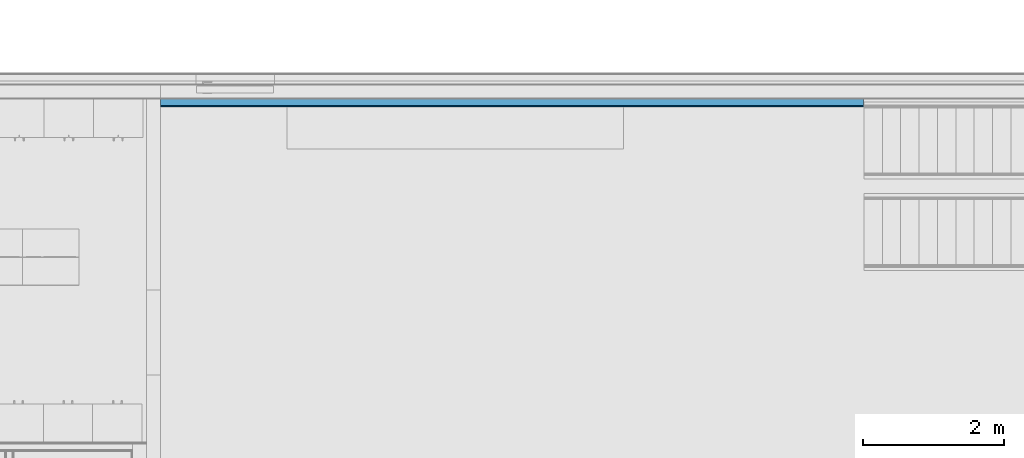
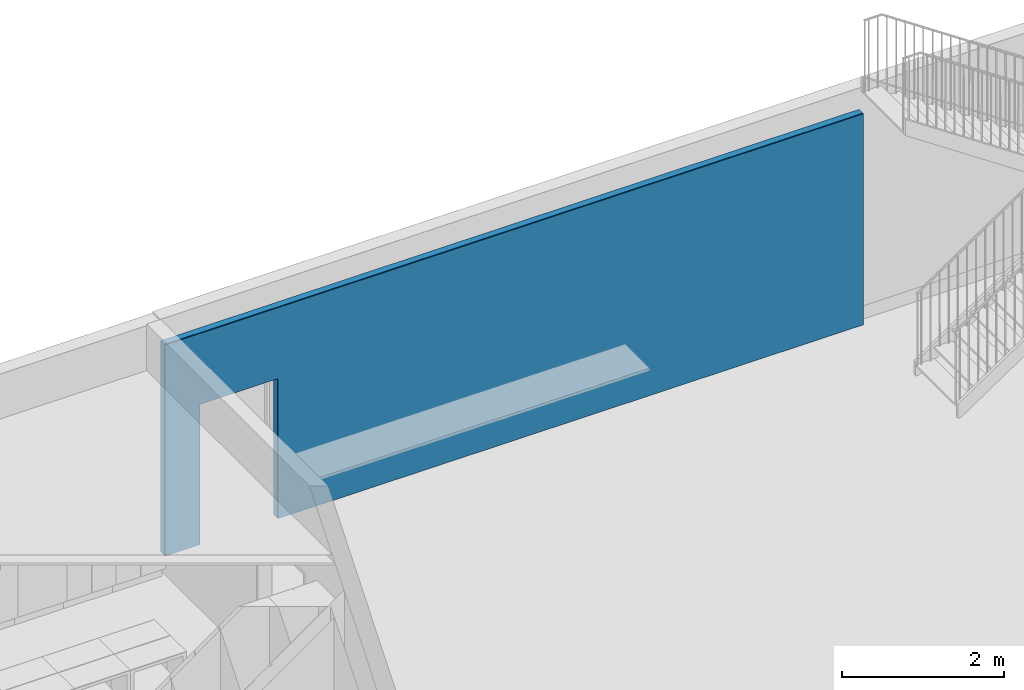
# One storey, part 19 of 67: 2 building element parts, 1 element without a shape of its own.
"""IFC4 building model written with IfcOpenShell, lengths in millimetres."""

from ifc_helpers import new_model, entity, si_unit, converted_unit, direction, frame, origin, place, context, subcontext, project, spatial, polygons, material, type_object, element, aggregate, save


model = new_model("IFC4")

# Units and contexts
model_context = context("Model", 3, precision=0.01, world=origin(), true_north=direction((0.0, 1.0)))
body_context = subcontext(model_context, "Body", "Model", "MODEL_VIEW")
ifc_project = project(units=[si_unit("LENGTHUNIT", "METRE", prefix="MILLI"), si_unit("AREAUNIT", "SQUARE_METRE"), si_unit("VOLUMEUNIT", "CUBIC_METRE"), converted_unit("PLANEANGLEUNIT", "DEGREE", entity("IfcPlaneAngleMeasure", 0.017453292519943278), si_unit("PLANEANGLEUNIT", "RADIAN"), dimensions=[0, 0, 0, 0, 0, 0, 0])], contexts=[model_context])

# Site, building, storey
site_placement = place(None, origin())
site = spatial("IfcSite", under=ifc_project, at=site_placement, Name="Tomtens navn", CompositionType="ELEMENT")
building_placement = place(site_placement, origin())
building = spatial("IfcBuilding", under=site, at=building_placement, Name="Byggets navn", CompositionType="ELEMENT")
storey_placement = place(building_placement, origin())
storey = spatial("IfcBuildingStorey", under=building, at=storey_placement, Name="Level 01", CompositionType="ELEMENT", Elevation=2.1993652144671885e-25)

# Wall, building element parts
wall_type = type_object("IfcWallType", Name="Basic Wall:IV12 Utforing Stender(48)-Forestia", PredefinedType="STANDARD")
wall_placement = place(storey_placement, frame((68822.85352810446, 22806.466456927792, 0.0)))
wall = element("IfcWall", 1, at=wall_placement, inside=storey, type_object=wall_type, Name="Basic Wall:IV12 Utforing Stender(48)-Forestia", PredefinedType="NOTDEFINED")
ifc_material_1 = material(Name="NO_platekledning forestia", Category="Tre")
building_element_part_1_placement = place(wall_placement, frame((0.0, -55.0, 0.0)))
building_element_part_1 = element("IfcBuildingElementPart", 2, at=building_element_part_1_placement, material=ifc_material_1, Name="NO_platekledning forestia", context=body_context, shape_type="Tessellation", body=[
    polygons([(9952.00000000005, 15.000000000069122, 7.331217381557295e-26), (1610.000000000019, 15.000000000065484, 7.331217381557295e-26), (1610.000000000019, 15.000000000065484, 2110.000000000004), (500.0000000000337, 15.000000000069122, 2110.000000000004), (500.0000000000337, 15.000000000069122, 7.331217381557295e-26), (4.604798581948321e-12, 15.000000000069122, 7.331217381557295e-26), (4.604798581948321e-12, 15.000000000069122, 3179.9999999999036), (9952.00000000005, 15.000000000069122, 3179.9999999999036), (500.0000000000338, 6.548361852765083e-11, 2.1993652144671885e-25), (4.707229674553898e-12, 6.912159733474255e-11, 2.1993652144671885e-25), (9952.00000000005, 6.912159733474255e-11, 3179.9999999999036), (9952.00000000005, 6.912159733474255e-11, 2.1993652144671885e-25), (4.707229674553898e-12, 6.912159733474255e-11, 3179.9999999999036), (1610.0000000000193, 6.548361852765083e-11, 2.1993652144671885e-25), (1610.0000000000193, 6.548361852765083e-11, 2110.000000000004), (500.0000000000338, 6.548361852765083e-11, 2110.000000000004)], [[[1, 2, 3, 4, 5, 6, 7, 8]], [[9, 10, 6, 5]], [[11, 12, 1, 8]], [[13, 11, 8, 7]], [[10, 13, 7, 6]], [[14, 15, 3, 2]], [[15, 16, 4, 3]], [[16, 9, 5, 4]], [[12, 14, 2, 1]], [[12, 11, 13, 10, 9, 16, 15, 14]]], closed=True),
])
ifc_material_2 = material(Name="Stender", Category="Unassigned")
building_element_part_2_placement = place(wall_placement, frame((0.0, -40.0, 0.0)))
building_element_part_2 = element("IfcBuildingElementPart", 3, at=building_element_part_2_placement, material=ifc_material_2, Name="Stender", context=body_context, shape_type="Tessellation", body=[
    polygons([(1610.000000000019, 6.912159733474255e-11, 7.331217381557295e-26), (9952.00000000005, 7.275957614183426e-11, 7.331217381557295e-26), (9952.00000000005, 7.275957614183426e-11, 3179.9999999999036), (4.604798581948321e-12, 7.275957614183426e-11, 3179.9999999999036), (4.604798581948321e-12, 7.275957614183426e-11, 7.331217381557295e-26), (500.0000000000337, 7.275957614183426e-11, 7.331217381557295e-26), (500.0000000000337, 7.275957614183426e-11, 2110.000000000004), (1610.000000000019, 6.912159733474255e-11, 2110.000000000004), (9952.000000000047, 95.00000000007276, 3179.9999999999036), (9952.000000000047, 95.00000000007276, 2.1993652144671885e-25), (1610.0000000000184, 95.00000000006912, 2.1993652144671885e-25), (1610.0000000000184, 95.00000000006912, 200.0), (1610.0000000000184, 95.00000000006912, 2110.000000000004), (500.0000000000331, 95.00000000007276, 2110.000000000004), (500.0000000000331, 95.00000000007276, 199.9999999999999), (500.0000000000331, 95.00000000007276, 2.1993652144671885e-25), (3.956068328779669e-12, 95.00000000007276, 2.1993652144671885e-25), (1.850798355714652e-11, 95.00000000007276, 200.0), (3.956068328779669e-12, 95.00000000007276, 3179.9999999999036)], [[[1, 2, 3, 4, 5, 6, 7, 8]], [[9, 10, 11, 12, 13, 14, 15, 16, 17, 18, 19]], [[17, 16, 6, 5]], [[10, 9, 3, 2]], [[9, 19, 4, 3]], [[18, 17, 5, 4, 19]], [[12, 11, 1, 8, 13]], [[14, 13, 8, 7]], [[15, 14, 7, 6, 16]], [[11, 10, 2, 1]]], closed=True),
])
aggregate(wall, [building_element_part_1, building_element_part_2])

save(model, "model.ifc")
